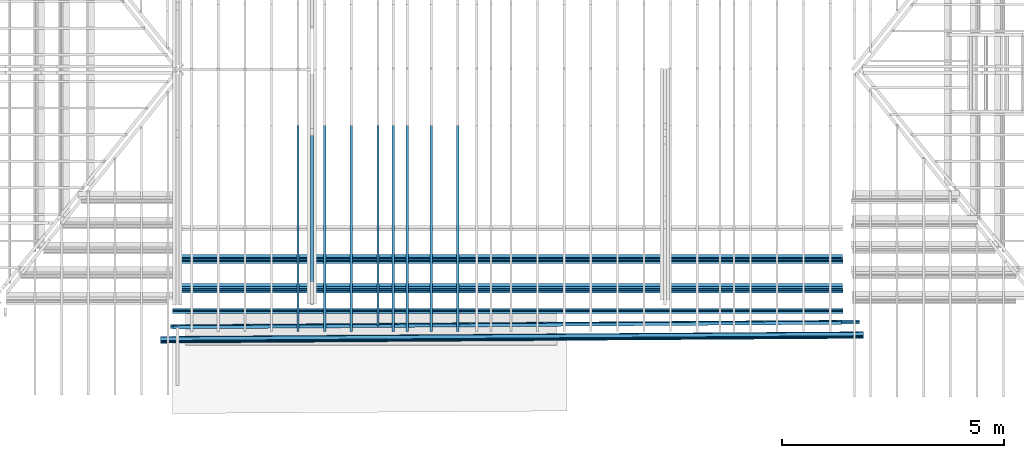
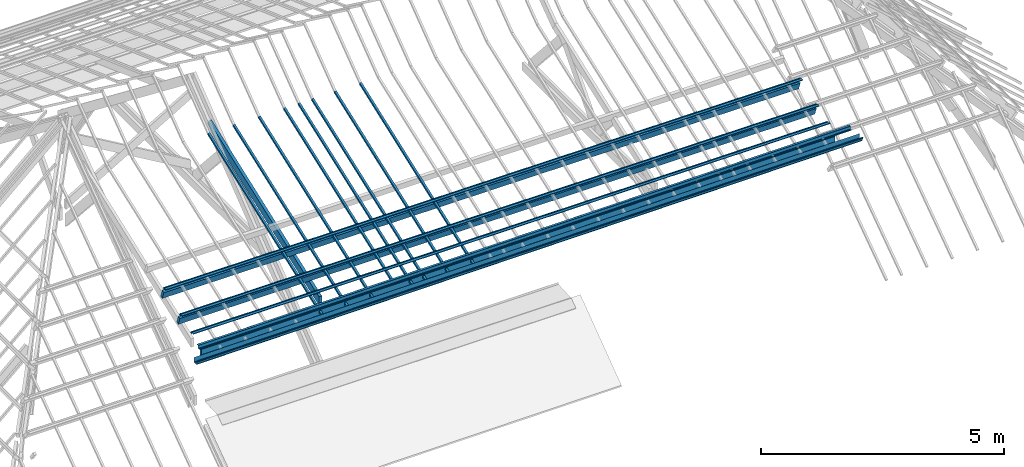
# One storey, part 4 of 18: 17 beams.
"""IFC2X3 building model written with IfcOpenShell, lengths in centimetres."""

from ifc_helpers import new_model, entity, si_unit, converted_unit, direction, frame, frame_2d, origin, place, context, subcontext, project, spatial, polyline, circle_curve, parameter, trimmed, segment, composite_curve, rectangle, outline, extrude, clip, halfspace, material, type_object, element, save


model = new_model("IFC2X3")

# Units and contexts
model_context = context("Model", 3, precision=0.001, world=frame((0.0, 0.0, 13090.0)), true_north=direction((6.123233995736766e-17, 1.0)))
body_context = subcontext(model_context, "Body", "Model", "MODEL_VIEW")
ifc_project = project(units=[si_unit("LENGTHUNIT", "METRE", prefix="CENTI"), si_unit("AREAUNIT", "SQUARE_METRE"), si_unit("VOLUMEUNIT", "CUBIC_METRE"), converted_unit("PLANEANGLEUNIT", "DEGREE", entity("IfcPlaneAngleMeasure", 0.017453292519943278), si_unit("PLANEANGLEUNIT", "RADIAN"), dimensions=[0, 0, 0, 0, 0, 0, 0])], contexts=[model_context])

# Site, building, storey
site_placement = place(None, origin())
site = spatial("IfcSite", under=ifc_project, at=site_placement, Name="Default", CompositionType="ELEMENT")
building_placement = place(site_placement, origin())
building = spatial("IfcBuilding", under=site, at=building_placement, Name="e 39 logements et 22 maisons relais", CompositionType="ELEMENT")
storey_placement = place(building_placement, frame((0.0, 0.0, 610.0)))
storey = spatial("IfcBuildingStorey", under=building, at=storey_placement, Name="R+2", CompositionType="ELEMENT", Elevation=609.9999999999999)

# Beams
ifc_material_1 = material(Name="Bois - Bois de construction de dimensions courantes")
beam_type_1 = type_object("IfcBeamType", Name="Poutre - Bois de construction de dimensions courantes:70 200", PredefinedType="BEAM")
beam_1_placement = place(storey_placement, frame((-609.2819705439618, -680.0247581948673, 67.5677552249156), z_axis=(0.0, -0.3450257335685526, 0.9385932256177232), x_axis=(0.0, 0.9385932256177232, 0.3450257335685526)))
element("IfcBeam", 1, at=beam_1_placement, inside=storey, type_object=beam_type_1, material=ifc_material_1, Name="Poutre - Bois de construction de dimensions courantes:70 200", ObjectType="Poutre - Bois de construction de dimensions courantes:70 200", context=body_context, shape_type="Clipping", body=[
    clip(clip(extrude(rectangle(XDim=19.99999999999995, YDim=7.00000000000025, at=frame_2d((5.417888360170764e-14, 1.7763568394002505e-14), x_axis=(0.0, 1.0))), frame((91.63930977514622, 0.0, -110.0), z_axis=(1.0, 0.0, 0.0), x_axis=(0.0, 1.0, 0.0)), (0.0, 0.0, 1.0), 490.5234343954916), halfspace(frame((408.17420223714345, 716.5728512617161, -165.98557123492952), z_axis=(0.3059717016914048, 0.0, -0.95204060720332), x_axis=(0.0, -1.0, 0.0)), False)), halfspace(frame((112.13683101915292, 716.572851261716, -64.64670047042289), z_axis=(-0.9377691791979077, 0.0, 0.34725922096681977), x_axis=(0.0, -1.0, 0.0)), False)),
])
beam_2_placement = place(storey_placement, frame((-570.9302602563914, -515.7575884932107, 42.200000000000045), z_axis=(0.000987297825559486, 0.0, 0.9999995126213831), x_axis=(-0.9999995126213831, 0.0, 0.000987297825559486)))
element("IfcBeam", 2, at=beam_2_placement, inside=storey, type_object=beam_type_1, material=ifc_material_1, Name="Poutre - Bois de construction de dimensions courantes:70 200", ObjectType="Poutre - Bois de construction de dimensions courantes:70 200", context=body_context, shape_type="SweptSolid", body=[
    extrude(rectangle(XDim=19.99999999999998, YDim=7.000000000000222, at=frame_2d((1.2523315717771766e-13, -1.8474111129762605e-13), x_axis=(0.0, 1.0))), frame((-1158.0719701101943, -3.4202014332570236, -9.39692620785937), z_axis=(1.0, 0.0, 0.0), x_axis=(0.0, -0.9396926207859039, 0.34202014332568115)), (0.0, 0.0, 1.0), 1510.1712385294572),
])
beam_3_placement = place(storey_placement, frame((-570.9302602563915, -449.62616565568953, 66.40000000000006), z_axis=(0.0018746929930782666, 0.0, 0.9999982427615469), x_axis=(-0.9999982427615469, 0.0, 0.0018746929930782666)))
element("IfcBeam", 3, at=beam_3_placement, inside=storey, type_object=beam_type_1, material=ifc_material_1, Name="Poutre - Bois de construction de dimensions courantes:70 200", ObjectType="Poutre - Bois de construction de dimensions courantes:70 200", context=body_context, shape_type="SweptSolid", body=[
    extrude(rectangle(XDim=19.999999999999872, YDim=7.000000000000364, at=frame_2d((1.865174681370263e-14, -5.1514348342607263e-14), x_axis=(0.0, 1.0))), frame((-1158.0718294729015, -3.317595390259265, -9.115018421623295), z_axis=(1.0, 0.0, 0.0), x_axis=(0.0, -0.9396926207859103, 0.3420201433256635)), (0.0, 0.0, 1.0), 1510.1712385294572),
])
beam_4_placement = place(storey_placement, frame((-570.8546384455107, -601.7967583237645, 24.560107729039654), z_axis=(0.0, 0.0, 1.0), x_axis=(-0.9999767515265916, -0.0068188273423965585, 0.0)))
element("IfcBeam", 4, at=beam_4_placement, inside=storey, type_object=beam_type_1, material=ifc_material_1, Name="Poutre - Bois de construction de dimensions courantes:70 200", ObjectType="Poutre - Bois de construction de dimensions courantes:70 200", context=body_context, shape_type="SweptSolid", body=[
    extrude(rectangle(XDim=20.0, YDim=7.0000000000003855, at=frame_2d((0.0, -5.417888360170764e-14), x_axis=(1.0, 0.0))), frame((-1156.6203608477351, 0.0, -17.0), z_axis=(1.0, 0.0, 0.0), x_axis=(0.0, 0.0, -1.0)), (0.0, 0.0, 1.0), 1508.71957528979),
])
ifc_material_2 = material(Name="neuf")
beam_type_2 = type_object("IfcBeamType", Name="gouttiere ALU G400:gouttiere ALU G400", PredefinedType="BEAM")
beam_5_placement = place(storey_placement, frame((-573.2475187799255, -622.2004334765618, 48.707887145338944), z_axis=(0.0, 0.0, 1.0), x_axis=(-0.9999767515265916, -0.006818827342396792, 0.0)))
element("IfcBeam", 5, at=beam_5_placement, inside=storey, type_object=beam_type_2, material=ifc_material_2, Name="gouttiere ALU G400:gouttiere ALU G400", ObjectType="gouttiere ALU G400:gouttiere ALU G400", context=body_context, shape_type="SweptSolid", body=[
    extrude(outline(composite_curve([segment(polyline([(-6.028675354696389, -10.418144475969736), (4.915125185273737, -10.418144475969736)]), True, "CONTINUOUS"), segment(trimmed(circle_curve(frame_2d((4.482502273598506, -7.967211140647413), x_axis=(0.17382635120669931, -0.9847763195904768)), 2.4888223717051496), [parameter(0.0)], [parameter(79.98963375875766)], True, "PARAMETER"), True, "CONTINUOUS"), segment(polyline([(6.971324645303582, -7.967211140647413), (6.971324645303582, -1.4672111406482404)]), True, "CONTINUOUS"), segment(trimmed(circle_curve(frame_2d((5.604531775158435, -1.467211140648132), x_axis=(1.0, 0.0)), 1.3667928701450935), [parameter(0.0)], [parameter(80.76228289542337)], True, "PARAMETER"), True, "CONTINUOUS"), segment(polyline([(5.8239443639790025, -0.11814447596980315), (4.738394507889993, -0.11814447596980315)]), True, "CONTINUOUS"), segment(trimmed(circle_curve(frame_2d((4.738394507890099, 0.5488704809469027), x_axis=(0.0, -1.0)), 0.6670149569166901), [parameter(270.0000000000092)], [parameter(0.0)], True, "PARAMETER"), False, "CONTINUOUS"), segment(trimmed(circle_curve(frame_2d((2.6511667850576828, 0.5488704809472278), x_axis=(1.0, 0.0)), 1.4202127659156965), [parameter(0.0)], [parameter(75.70274320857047)], True, "PARAMETER"), True, "CONTINUOUS"), segment(polyline([(3.0018920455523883, 1.9250957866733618), (-3.0280800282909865, 2.8687394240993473)]), True, "CONTINUOUS"), segment(trimmed(circle_curve(frame_2d((-2.828714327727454, 3.6330360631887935), x_axis=(-0.25240289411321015, -0.9676222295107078)), 0.7898708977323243), [parameter(284.61974875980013)], [parameter(0.0)], True, "PARAMETER"), False, "CONTINUOUS"), segment(polyline([(-3.618585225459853, 3.633036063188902), (-3.6185852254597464, 4.392159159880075)]), True, "CONTINUOUS"), segment(trimmed(circle_curve(frame_2d((-4.4100640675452, 4.392159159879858), x_axis=(1.0, 0.0)), 0.7914788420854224), [parameter(0.0)], [parameter(89.99999999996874)], True, "PARAMETER"), True, "CONTINUOUS"), segment(polyline([(-4.410064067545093, 5.18363800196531), (-4.596964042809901, 5.18363800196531)]), True, "CONTINUOUS"), segment(trimmed(circle_curve(frame_2d((-4.5969640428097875, 4.455817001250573), x_axis=(0.0, 1.0)), 0.7278210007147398), [parameter(0.0)], [parameter(89.99999999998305)], True, "PARAMETER"), True, "CONTINUOUS"), segment(polyline([(-5.324785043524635, 4.455817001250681), (-5.509735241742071, 2.716322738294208)]), True, "CONTINUOUS"), segment(polyline([(-5.509735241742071, 2.716322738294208), (-5.30863358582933, 2.716322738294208)]), True, "CONTINUOUS"), segment(polyline([(-5.308633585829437, 2.716322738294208), (-5.126213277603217, 4.451936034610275)]), True, "CONTINUOUS"), segment(trimmed(circle_curve(frame_2d((-4.59629378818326, 4.451936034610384), x_axis=(-1.0, 0.0)), 0.5299194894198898), [parameter(269.9999999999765)], [parameter(0.0)], True, "PARAMETER"), False, "CONTINUOUS"), segment(polyline([(-4.59629378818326, 4.981855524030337), (-4.4096264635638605, 4.981855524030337)]), True, "CONTINUOUS"), segment(trimmed(circle_curve(frame_2d((-4.409626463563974, 4.391273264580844), x_axis=(0.0, 1.0)), 0.5905822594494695), [parameter(270.00000000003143)], [parameter(0.0)], True, "PARAMETER"), False, "CONTINUOUS"), segment(polyline([(-3.8190442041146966, 4.391273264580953), (-3.81904420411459, 3.633116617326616)]), True, "CONTINUOUS"), segment(trimmed(circle_curve(frame_2d((-2.8289568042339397, 3.633116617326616), x_axis=(-1.0, 0.0)), 0.9900873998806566), [parameter(0.0)], [parameter(75.99999999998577)], True, "PARAMETER"), True, "CONTINUOUS"), segment(polyline([(-3.0684806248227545, 2.6724390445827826), (2.961294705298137, 1.729014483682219)]), True, "CONTINUOUS"), segment(trimmed(circle_curve(frame_2d((2.6511667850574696, 0.5488704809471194), x_axis=(0.25415888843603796, 0.9671624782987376)), 1.2202127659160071), [parameter(284.7237510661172)], [parameter(0.0)], True, "PARAMETER"), False, "CONTINUOUS"), segment(trimmed(circle_curve(frame_2d((4.738394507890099, 0.5488704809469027), x_axis=(-1.0, 0.0)), 0.8670149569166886), [parameter(0.0)], [parameter(89.99999999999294)], True, "PARAMETER"), True, "CONTINUOUS"), segment(polyline([(4.738394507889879, -0.31814447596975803), (5.80714323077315, -0.31814447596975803)]), True, "CONTINUOUS"), segment(trimmed(circle_curve(frame_2d((5.604531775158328, -1.4672111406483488), x_axis=(0.17364817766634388, 0.984807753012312)), 1.1667928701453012), [parameter(279.99999999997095)], [parameter(0.0)], True, "PARAMETER"), False, "CONTINUOUS"), segment(polyline([(6.771324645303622, -1.4672111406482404), (6.771324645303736, -7.967211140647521)]), True, "CONTINUOUS"), segment(trimmed(circle_curve(frame_2d((4.482502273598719, -7.967211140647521), x_axis=(1.0, 0.0)), 2.28882237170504), [parameter(280.4397307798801)], [parameter(0.0)], True, "PARAMETER"), False, "CONTINUOUS"), segment(polyline([(4.897239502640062, -10.218144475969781), (-6.028675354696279, -10.218144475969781)]), True, "CONTINUOUS"), segment(polyline([(-6.028675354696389, -10.218144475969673), (-6.028675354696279, -10.418144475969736)]), True, "CONTINUOUS")], self_intersect=False)), frame((-1207.903491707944, 10.218144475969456, -37.02867535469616), z_axis=(1.0, 0.0, 0.0), x_axis=(0.0, 0.0, -1.0)), (0.0, 0.0, 1.0), 1585.1422732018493),
])
beam_type_3 = type_object("IfcBeamType", Name="panne z:panne z", PredefinedType="BEAM")
beam_6_placement = place(storey_placement, frame((-570.9302602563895, -457.00439511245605, 82.49073212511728), z_axis=(0.001851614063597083, 0.0, 0.9999982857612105), x_axis=(-0.9999982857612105, 0.0, 0.001851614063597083)))
element("IfcBeam", 6, at=beam_6_placement, inside=storey, type_object=beam_type_3, material=ifc_material_2, Name="panne z:panne z", ObjectType="panne z:panne z", context=body_context, shape_type="SweptSolid", body=[
    extrude(outline(composite_curve([segment(polyline([(-4.600000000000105, -3.0), (-0.30000000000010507, -3.0)]), True, "CONTINUOUS"), segment(trimmed(circle_curve(frame_2d((-0.30000000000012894, -2.5999999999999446), x_axis=(0.0, -1.0)), 0.40000000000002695), [parameter(0.0)], [parameter(90.00000000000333)], True, "PARAMETER"), True, "CONTINUOUS"), segment(polyline([(0.09999999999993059, -2.6000000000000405), (0.09999999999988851, 2.599999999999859)]), True, "CONTINUOUS"), segment(trimmed(circle_curve(frame_2d((0.2999999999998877, 2.599999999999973), x_axis=(-1.0, 0.0)), 0.1999999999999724), [parameter(269.9999999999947)], [parameter(0.0)], True, "PARAMETER"), False, "CONTINUOUS"), segment(polyline([(0.29999999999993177, 2.799999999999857), (4.599999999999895, 2.7999999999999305)]), True, "CONTINUOUS"), segment(trimmed(circle_curve(frame_2d((4.599999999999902, 2.6000000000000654), x_axis=(0.0, 1.0)), 0.19999999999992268), [parameter(269.99999999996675)], [parameter(0.0)], True, "PARAMETER"), False, "CONTINUOUS"), segment(polyline([(4.799999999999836, 2.6000000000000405), (4.799999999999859, 1.0)]), True, "CONTINUOUS"), segment(polyline([(4.799999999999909, 1.0), (5.0, 1.0)]), True, "CONTINUOUS"), segment(polyline([(5.0, 1.0), (5.0, 2.6000000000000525)]), True, "CONTINUOUS"), segment(trimmed(circle_curve(frame_2d((4.599999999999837, 2.5999999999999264), x_axis=(1.0, 0.0)), 0.40000000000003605), [parameter(0.0)], [parameter(89.9999999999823)], True, "PARAMETER"), True, "CONTINUOUS"), segment(polyline([(4.599999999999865, 3.0), (0.29999999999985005, 3.0)]), True, "CONTINUOUS"), segment(trimmed(circle_curve(frame_2d((0.29999999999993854, 2.5999999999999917), x_axis=(0.0, 1.0)), 0.40000000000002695), [parameter(0.0)], [parameter(90.00000000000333)], True, "PARAMETER"), True, "CONTINUOUS"), segment(polyline([(-0.10000000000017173, 2.6000000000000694), (-0.10000000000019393, -2.59999999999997)]), True, "CONTINUOUS"), segment(trimmed(circle_curve(frame_2d((-0.3000000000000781, -2.5999999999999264), x_axis=(1.0, 0.0)), 0.19999999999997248), [parameter(269.9999999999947)], [parameter(0.0)], True, "PARAMETER"), False, "CONTINUOUS"), segment(polyline([(-0.30000000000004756, -2.800000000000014), (-4.600000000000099, -2.8000000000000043)]), True, "CONTINUOUS"), segment(trimmed(circle_curve(frame_2d((-4.600000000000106, -2.6000000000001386), x_axis=(0.0, -1.0)), 0.1999999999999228), [parameter(269.99999999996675)], [parameter(0.0)], True, "PARAMETER"), False, "CONTINUOUS"), segment(polyline([(-4.800000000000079, -2.600000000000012), (-4.8000000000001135, -1.0)]), True, "CONTINUOUS"), segment(polyline([(-4.800000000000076, -1.0), (-5.0, -1.0)]), True, "CONTINUOUS"), segment(polyline([(-5.0, -1.0), (-5.0, -2.600000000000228)]), True, "CONTINUOUS"), segment(trimmed(circle_curve(frame_2d((-4.600000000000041, -2.5999999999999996), x_axis=(-1.0, 0.0)), 0.40000000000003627), [parameter(0.0)], [parameter(89.9999999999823)], True, "PARAMETER"), True, "CONTINUOUS")], self_intersect=False)), frame((-1159.7812856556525, -2.3539310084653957, -6.46737229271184), z_axis=(1.0, 0.0, 0.0), x_axis=(0.0, -0.9396926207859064, 0.3420201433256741)), (0.0, 0.0, 1.0), 1511.8808798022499),
])
beam_7_placement = place(storey_placement, frame((-570.9302602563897, -524.090523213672, 58.0), z_axis=(0.0012697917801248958, 0.0, 0.9999991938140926), x_axis=(-0.9999991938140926, 0.0, 0.0012697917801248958)))
element("IfcBeam", 7, at=beam_7_placement, inside=storey, type_object=beam_type_3, material=ifc_material_2, Name="panne z:panne z", ObjectType="panne z:panne z", context=body_context, shape_type="SweptSolid", body=[
    extrude(outline(composite_curve([segment(polyline([(-4.599999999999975, -3.0), (-0.2999999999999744, -3.0)]), True, "CONTINUOUS"), segment(trimmed(circle_curve(frame_2d((-0.3000000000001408, -2.599999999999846), x_axis=(0.0, -1.0)), 0.4000000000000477), [parameter(0.0)], [parameter(89.99999999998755)], True, "PARAMETER"), True, "CONTINUOUS"), segment(polyline([(0.10000000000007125, -2.599999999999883), (0.0999999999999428, 2.600000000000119)]), True, "CONTINUOUS"), segment(trimmed(circle_curve(frame_2d((0.2999999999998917, 2.600000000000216), x_axis=(-1.0, 0.0)), 0.19999999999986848), [parameter(269.99999999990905)], [parameter(0.0)], True, "PARAMETER"), False, "CONTINUOUS"), segment(polyline([(0.2999999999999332, 2.8000000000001), (4.599999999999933, 2.8000000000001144)]), True, "CONTINUOUS"), segment(trimmed(circle_curve(frame_2d((4.599999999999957, 2.600000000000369), x_axis=(0.0, 1.0)), 0.19999999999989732), [parameter(269.9999999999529)], [parameter(0.0)], True, "PARAMETER"), False, "CONTINUOUS"), segment(polyline([(4.799999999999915, 2.6000000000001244), (4.7999999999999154, 1.0)]), True, "CONTINUOUS"), segment(polyline([(4.7999999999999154, 1.0), (5.0, 1.0)]), True, "CONTINUOUS"), segment(polyline([(5.0, 1.0), (5.0, 2.6000000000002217)]), True, "CONTINUOUS"), segment(trimmed(circle_curve(frame_2d((4.599999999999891, 2.6000000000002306), x_axis=(1.0, 0.0)), 0.4000000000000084), [parameter(0.0)], [parameter(90.00000000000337)], True, "PARAMETER"), True, "CONTINUOUS"), segment(polyline([(4.599999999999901, 3.0), (0.29999999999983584, 3.0)]), True, "CONTINUOUS"), segment(trimmed(circle_curve(frame_2d((0.30000000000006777, 2.600000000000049), x_axis=(0.0, 1.0)), 0.40000000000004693), [parameter(0.0)], [parameter(89.99999999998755)], True, "PARAMETER"), True, "CONTINUOUS"), segment(polyline([(-0.10000000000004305, 2.6000000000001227), (-0.09999999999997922, -2.6000000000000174)]), True, "CONTINUOUS"), segment(trimmed(circle_curve(frame_2d((-0.2999999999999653, -2.6000000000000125), x_axis=(1.0, 0.0)), 0.1999999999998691), [parameter(269.99999999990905)], [parameter(0.0)], True, "PARAMETER"), False, "CONTINUOUS"), segment(polyline([(-0.30000000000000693, -2.799999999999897), (-4.600000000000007, -2.799999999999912)]), True, "CONTINUOUS"), segment(trimmed(circle_curve(frame_2d((-4.600000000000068, -2.600000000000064), x_axis=(0.0, -1.0)), 0.19999999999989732), [parameter(269.9999999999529)], [parameter(0.0)], True, "PARAMETER"), False, "CONTINUOUS"), segment(polyline([(-4.799999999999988, -2.5999999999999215), (-4.799999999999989, -1.0)]), True, "CONTINUOUS"), segment(polyline([(-4.799999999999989, -1.0), (-5.0, -1.0)]), True, "CONTINUOUS"), segment(polyline([(-5.0, -1.0), (-5.0, -2.599999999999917)]), True, "CONTINUOUS"), segment(trimmed(circle_curve(frame_2d((-4.600000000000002, -2.599999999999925), x_axis=(-1.0, 0.0)), 0.4000000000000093), [parameter(0.0)], [parameter(90.00000000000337)], True, "PARAMETER"), True, "CONTINUOUS")], self_intersect=False)), frame((-1159.7812856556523, -2.4565370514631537, -6.749280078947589), z_axis=(1.0, 0.0, 0.0), x_axis=(0.0, -0.9396926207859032, 0.34202014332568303)), (0.0, 0.0, 1.0), 1511.88067866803),
])
beam_8_placement = place(storey_placement, frame((-570.9302602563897, -569.8842296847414, 41.01999999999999), z_axis=(0.0005214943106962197, 0.0, 0.9999998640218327), x_axis=(-0.9999998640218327, 0.0, 0.0005214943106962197)))
element("IfcBeam", 8, at=beam_8_placement, inside=storey, type_object=beam_type_3, material=ifc_material_2, Name="panne z:panne z", ObjectType="panne z:panne z", context=body_context, shape_type="SweptSolid", body=[
    extrude(outline(composite_curve([segment(polyline([(-4.599999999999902, -3.0), (-0.29999999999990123, -3.0)]), True, "CONTINUOUS"), segment(trimmed(circle_curve(frame_2d((-0.2999999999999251, -2.5999999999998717), x_axis=(0.0, -1.0)), 0.39999999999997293), [parameter(0.0)], [parameter(90.00000000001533)], True, "PARAMETER"), True, "CONTINUOUS"), segment(polyline([(0.10000000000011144, -2.5999999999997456), (0.10000000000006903, 2.600000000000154)]), True, "CONTINUOUS"), segment(trimmed(circle_curve(frame_2d((0.2999999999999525, 2.6000000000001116), x_axis=(-1.0, 0.0)), 0.19999999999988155), [parameter(269.9999999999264)], [parameter(0.0)], True, "PARAMETER"), False, "CONTINUOUS"), segment(polyline([(0.30000000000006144, 2.8000000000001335), (4.600000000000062, 2.800000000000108)]), True, "CONTINUOUS"), segment(trimmed(circle_curve(frame_2d((4.600000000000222, 2.6000000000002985), x_axis=(0.0, 1.0)), 0.19999999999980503), [parameter(269.99999999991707)], [parameter(0.0)], True, "PARAMETER"), False, "CONTINUOUS"), segment(polyline([(4.800000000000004, 2.600000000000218), (4.800000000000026, 1.0)]), True, "CONTINUOUS"), segment(polyline([(4.800000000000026, 1.0), (5.0, 1.0)]), True, "CONTINUOUS"), segment(polyline([(5.0, 1.0), (5.0, 2.6000000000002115)]), True, "CONTINUOUS"), segment(trimmed(circle_curve(frame_2d((4.600000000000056, 2.600000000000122), x_axis=(1.0, 0.0)), 0.3999999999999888), [parameter(0.0)], [parameter(90.00000000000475)], True, "PARAMETER"), True, "CONTINUOUS"), segment(polyline([(4.600000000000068, 3.0), (0.29999999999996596, 3.0)]), True, "CONTINUOUS"), segment(trimmed(circle_curve(frame_2d((0.30000000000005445, 2.600000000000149), x_axis=(0.0, 1.0)), 0.39999999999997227), [parameter(0.0)], [parameter(90.00000000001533)], True, "PARAMETER"), True, "CONTINUOUS"), segment(polyline([(-0.09999999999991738, 2.6000000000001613), (-0.09999999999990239, -2.599999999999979)]), True, "CONTINUOUS"), segment(trimmed(circle_curve(frame_2d((-0.2999999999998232, -2.5999999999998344), x_axis=(1.0, 0.0)), 0.19999999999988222), [parameter(269.9999999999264)], [parameter(0.0)], True, "PARAMETER"), False, "CONTINUOUS"), segment(polyline([(-0.2999999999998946, -2.7999999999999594), (-4.599999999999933, -2.7999999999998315)]), True, "CONTINUOUS"), segment(trimmed(circle_curve(frame_2d((-4.600000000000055, -2.600000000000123), x_axis=(0.0, -1.0)), 0.1999999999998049), [parameter(269.99999999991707)], [parameter(0.0)], True, "PARAMETER"), False, "CONTINUOUS"), segment(polyline([(-4.799999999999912, -2.5999999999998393), (-4.799999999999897, -1.0)]), True, "CONTINUOUS"), segment(polyline([(-4.7999999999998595, -1.0), (-5.0, -1.0)]), True, "CONTINUOUS"), segment(polyline([(-5.0, -1.0), (-5.0, -2.6000000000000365)]), True, "CONTINUOUS"), segment(trimmed(circle_curve(frame_2d((-4.599999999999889, -2.5999999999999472), x_axis=(-1.0, 0.0)), 0.399999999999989), [parameter(0.0)], [parameter(90.00000000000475)], True, "PARAMETER"), True, "CONTINUOUS")], self_intersect=False)), frame((-1159.7812856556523, -2.490739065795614, -6.843249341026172), z_axis=(1.0, 0.0, 0.0), x_axis=(0.0, -0.9396926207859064, 0.34202014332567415)), (0.0, 0.0, 1.0), 1511.8805302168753),
])
beam_type_4 = type_object("IfcBeamType", Name="Poutre - Bois de construction de dimensions courantes:50 50", PredefinedType="BEAM")
beam_9_placement = place(storey_placement, frame((-460.28197054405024, -682.4540034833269, 59.79760523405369), z_axis=(0.0, -0.34610942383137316, 0.9381941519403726), x_axis=(0.0, 0.9381941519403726, 0.34610942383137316)))
element("IfcBeam", 9, at=beam_9_placement, inside=storey, type_object=beam_type_4, material=ifc_material_1, Name="Poutre - Bois de construction de dimensions courantes:50 50", ObjectType="Poutre - Bois de construction de dimensions courantes:50 50", context=body_context, shape_type="SweptSolid", body=[
    extrude(rectangle(XDim=4.999999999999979, YDim=5.000000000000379, at=frame_2d((1.887379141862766e-14, -5.417888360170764e-14), x_axis=(1.0, 0.0))), frame((61.01339869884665, 0.0, -71.50000000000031), z_axis=(1.0, 0.0, 0.0), x_axis=(0.0, 0.0, -1.0)), (0.0, 0.0, 1.0), 482.9556376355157),
])
beam_10_placement = place(storey_placement, frame((-520.2819705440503, -682.4540034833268, 59.79760523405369), z_axis=(0.0, -0.34610942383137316, 0.9381941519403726), x_axis=(0.0, 0.9381941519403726, 0.34610942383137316)))
element("IfcBeam", 10, at=beam_10_placement, inside=storey, type_object=beam_type_4, material=ifc_material_1, Name="Poutre - Bois de construction de dimensions courantes:50 50", ObjectType="Poutre - Bois de construction de dimensions courantes:50 50", context=body_context, shape_type="SweptSolid", body=[
    extrude(rectangle(XDim=4.999999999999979, YDim=5.000000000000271, at=frame_2d((1.887379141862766e-14, 5.417888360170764e-14), x_axis=(1.0, 0.0))), frame((47.460988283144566, 0.0, -71.5000000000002), z_axis=(1.0, 0.0, 0.0), x_axis=(0.0, 0.0, -1.0)), (0.0, 0.0, 1.0), 496.5080480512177),
])
beam_11_placement = place(storey_placement, frame((-580.2819705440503, -682.4540034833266, 59.79760523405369), z_axis=(0.0, -0.34610942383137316, 0.9381941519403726), x_axis=(0.0, 0.9381941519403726, 0.34610942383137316)))
element("IfcBeam", 11, at=beam_11_placement, inside=storey, type_object=beam_type_4, material=ifc_material_1, Name="Poutre - Bois de construction de dimensions courantes:50 50", ObjectType="Poutre - Bois de construction de dimensions courantes:50 50", context=body_context, shape_type="SweptSolid", body=[
    extrude(rectangle(XDim=4.999999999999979, YDim=5.000000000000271, at=frame_2d((1.887379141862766e-14, -5.417888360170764e-14), x_axis=(1.0, 0.0))), frame((47.460988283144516, 0.0, -71.50000000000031), z_axis=(1.0, 0.0, 0.0), x_axis=(0.0, 0.0, -1.0)), (0.0, 0.0, 1.0), 496.5080480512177),
])
beam_12_placement = place(storey_placement, frame((-640.2819705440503, -682.4540034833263, 59.79760523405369), z_axis=(0.0, -0.34610942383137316, 0.9381941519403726), x_axis=(0.0, 0.9381941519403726, 0.34610942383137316)))
element("IfcBeam", 12, at=beam_12_placement, inside=storey, type_object=beam_type_4, material=ifc_material_1, Name="Poutre - Bois de construction de dimensions courantes:50 50", ObjectType="Poutre - Bois de construction de dimensions courantes:50 50", context=body_context, shape_type="SweptSolid", body=[
    extrude(rectangle(XDim=4.999999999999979, YDim=5.000000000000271, at=frame_2d((1.887379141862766e-14, 5.417888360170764e-14), x_axis=(1.0, 0.0))), frame((47.460988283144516, 0.0, -71.5000000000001), z_axis=(1.0, 0.0, 0.0), x_axis=(0.0, 0.0, -1.0)), (0.0, 0.0, 1.0), 496.5080480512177),
])
beam_13_placement = place(storey_placement, frame((-280.2114791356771, -682.4540034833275, 59.79760523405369), z_axis=(0.0, -0.34610942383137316, 0.9381941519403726), x_axis=(0.0, 0.9381941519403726, 0.34610942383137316)))
element("IfcBeam", 13, at=beam_13_placement, inside=storey, type_object=beam_type_4, material=ifc_material_1, Name="Poutre - Bois de construction de dimensions courantes:50 50", ObjectType="Poutre - Bois de construction de dimensions courantes:50 50", context=body_context, shape_type="SweptSolid", body=[
    extrude(rectangle(XDim=4.999999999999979, YDim=5.000000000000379, at=frame_2d((0.0, -5.417888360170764e-14), x_axis=(1.0, 0.0))), frame((47.46098828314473, 0.0, -71.50000000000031), z_axis=(1.0, 0.0, 0.0), x_axis=(0.0, 0.0, -1.0)), (0.0, 0.0, 1.0), 496.5080480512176),
])
beam_14_placement = place(storey_placement, frame((-340.2114791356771, -682.4540034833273, 59.79760523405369), z_axis=(0.0, -0.34610942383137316, 0.9381941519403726), x_axis=(0.0, 0.9381941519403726, 0.34610942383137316)))
element("IfcBeam", 14, at=beam_14_placement, inside=storey, type_object=beam_type_4, material=ifc_material_1, Name="Poutre - Bois de construction de dimensions courantes:50 50", ObjectType="Poutre - Bois de construction de dimensions courantes:50 50", context=body_context, shape_type="SweptSolid", body=[
    extrude(rectangle(XDim=4.999999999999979, YDim=5.000000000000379, at=frame_2d((0.0, -5.417888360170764e-14), x_axis=(1.0, 0.0))), frame((47.460988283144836, 0.0, -71.50000000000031), z_axis=(1.0, 0.0, 0.0), x_axis=(0.0, 0.0, -1.0)), (0.0, 0.0, 1.0), 496.5080480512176),
])
beam_15_placement = place(storey_placement, frame((-393.92765532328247, -682.4540034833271, 59.79760523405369), z_axis=(0.0, -0.34610942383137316, 0.9381941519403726), x_axis=(0.0, 0.9381941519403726, 0.34610942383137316)))
element("IfcBeam", 15, at=beam_15_placement, inside=storey, type_object=beam_type_4, material=ifc_material_1, Name="Poutre - Bois de construction de dimensions courantes:50 50", ObjectType="Poutre - Bois de construction de dimensions courantes:50 50", context=body_context, shape_type="SweptSolid", body=[
    extrude(rectangle(XDim=4.999999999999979, YDim=5.000000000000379, at=frame_2d((1.887379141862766e-14, 0.0), x_axis=(1.0, 0.0))), frame((47.46098828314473, 0.0, -71.50000000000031), z_axis=(1.0, 0.0, 0.0), x_axis=(0.0, 0.0, -1.0)), (0.0, 0.0, 1.0), 496.5080480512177),
])
beam_16_placement = place(storey_placement, frame((-425.88197054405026, -682.454003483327, 59.79760523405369), z_axis=(0.0, -0.34610942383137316, 0.9381941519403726), x_axis=(0.0, 0.9381941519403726, 0.34610942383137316)))
element("IfcBeam", 16, at=beam_16_placement, inside=storey, type_object=beam_type_4, material=ifc_material_1, Name="Poutre - Bois de construction de dimensions courantes:50 50", ObjectType="Poutre - Bois de construction de dimensions courantes:50 50", context=body_context, shape_type="SweptSolid", body=[
    extrude(rectangle(XDim=4.999999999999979, YDim=5.000000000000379, at=frame_2d((0.0, -5.417888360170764e-14), x_axis=(1.0, 0.0))), frame((47.46098828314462, 0.0, -71.50000000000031), z_axis=(1.0, 0.0, 0.0), x_axis=(0.0, 0.0, -1.0)), (0.0, 0.0, 1.0), 496.5080480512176),
])
beam_type_5 = type_object("IfcBeamType", Name="panne z pente sup 20 deg:panne z pente sup 20 deg", PredefinedType="BEAM")
beam_17_placement = place(storey_placement, frame((-568.7007226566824, -599.7171566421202, 33.477469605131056), z_axis=(0.0, 0.0, 1.0), x_axis=(-0.9999767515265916, -0.00681882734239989, 0.0)))
element("IfcBeam", 17, at=beam_17_placement, inside=storey, type_object=beam_type_5, material=ifc_material_2, Name="panne z pente sup 20 deg:panne z pente sup 20 deg", ObjectType="panne z pente sup 20 deg:panne z pente sup 20 deg", context=body_context, shape_type="SweptSolid", body=[
    extrude(outline(composite_curve([segment(polyline([(-4.507284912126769, -4.310771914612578), (-2.907284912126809, -4.310771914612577)]), True, "CONTINUOUS"), segment(polyline([(-2.907284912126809, -4.310771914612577), (-2.907284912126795, -4.110771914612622)]), True, "CONTINUOUS"), segment(polyline([(-2.9072849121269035, -4.1107719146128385), (-4.507284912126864, -4.110771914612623)]), True, "CONTINUOUS"), segment(trimmed(circle_curve(frame_2d((-4.507284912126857, -4.0064842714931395), x_axis=(0.0, -1.0)), 0.10428764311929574), [parameter(270.69749583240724)], [parameter(0.0)], True, "PARAMETER"), False, "CONTINUOUS"), segment(polyline([(-4.611564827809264, -4.007753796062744), (-3.32517857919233, -0.4734366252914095)]), True, "CONTINUOUS"), segment(trimmed(circle_curve(frame_2d((-3.170473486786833, -0.6236813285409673), x_axis=(-0.7173726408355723, 0.6966896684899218)), 0.2156551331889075), [parameter(324.660911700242)], [parameter(0.0)], True, "PARAMETER"), False, "CONTINUOUS"), segment(polyline([(-3.2097694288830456, -0.41163660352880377), (3.951039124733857, -0.4116366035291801)]), True, "CONTINUOUS"), segment(trimmed(circle_curve(frame_2d((3.951039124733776, -0.011636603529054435), x_axis=(0.0, -1.0)), 0.4000000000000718), [parameter(0.0)], [parameter(89.99999999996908)], True, "PARAMETER"), True, "CONTINUOUS"), segment(polyline([(4.351039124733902, -0.011636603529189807), (4.351039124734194, 4.288363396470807)]), True, "CONTINUOUS"), segment(trimmed(circle_curve(frame_2d((3.9510391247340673, 4.288363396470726), x_axis=(1.0, 0.0)), 0.40000000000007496), [parameter(0.0)], [parameter(89.99999999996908)], True, "PARAMETER"), True, "CONTINUOUS"), segment(polyline([(3.9510391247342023, 4.688363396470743), (2.3510391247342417, 4.68836339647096)]), True, "CONTINUOUS"), segment(polyline([(2.3510391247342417, 4.6883633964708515), (2.3510391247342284, 4.4883633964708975)]), True, "CONTINUOUS"), segment(polyline([(2.3510391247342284, 4.488363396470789), (3.951039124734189, 4.488363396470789)]), True, "CONTINUOUS"), segment(trimmed(circle_curve(frame_2d((3.9510391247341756, 4.288363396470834), x_axis=(0.0, 1.0)), 0.19999999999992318), [parameter(269.9999999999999)], [parameter(0.0)], True, "PARAMETER"), False, "CONTINUOUS"), segment(polyline([(4.1510391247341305, 4.288363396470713), (4.151039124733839, -0.011636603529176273)]), True, "CONTINUOUS"), segment(trimmed(circle_curve(frame_2d((3.9510391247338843, -0.011636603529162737), x_axis=(1.0, 0.0)), 0.19999999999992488), [parameter(269.9999999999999)], [parameter(0.0)], True, "PARAMETER"), False, "CONTINUOUS"), segment(polyline([(3.951039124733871, -0.21163660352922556), (-3.2251391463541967, -0.2116366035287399)]), True, "CONTINUOUS"), segment(trimmed(circle_curve(frame_2d((-3.1704734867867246, -0.6236813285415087), x_axis=(-0.13151686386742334, 0.9913139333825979)), 0.4156551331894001), [parameter(0.0)], [parameter(45.10140898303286)], True, "PARAMETER"), True, "CONTINUOUS"), segment(polyline([(-3.500934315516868, -0.37156066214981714), (-4.8086653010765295, -3.964522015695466)]), True, "CONTINUOUS"), segment(trimmed(circle_curve(frame_2d((-4.507284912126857, -4.0064842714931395), x_axis=(-0.990445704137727, 0.1379032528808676)), 0.3042876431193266), [parameter(0.0)], [parameter(97.92653463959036)], True, "PARAMETER"), True, "CONTINUOUS")], self_intersect=False)), frame((-1194.2897356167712, 0.3116366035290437, -11.13139471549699), z_axis=(1.0, 0.0, 0.0), x_axis=(0.0, 0.0, -1.0)), (0.0, 0.0, 1.0), 1553.221141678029),
])

save(model, "model.ifc")
